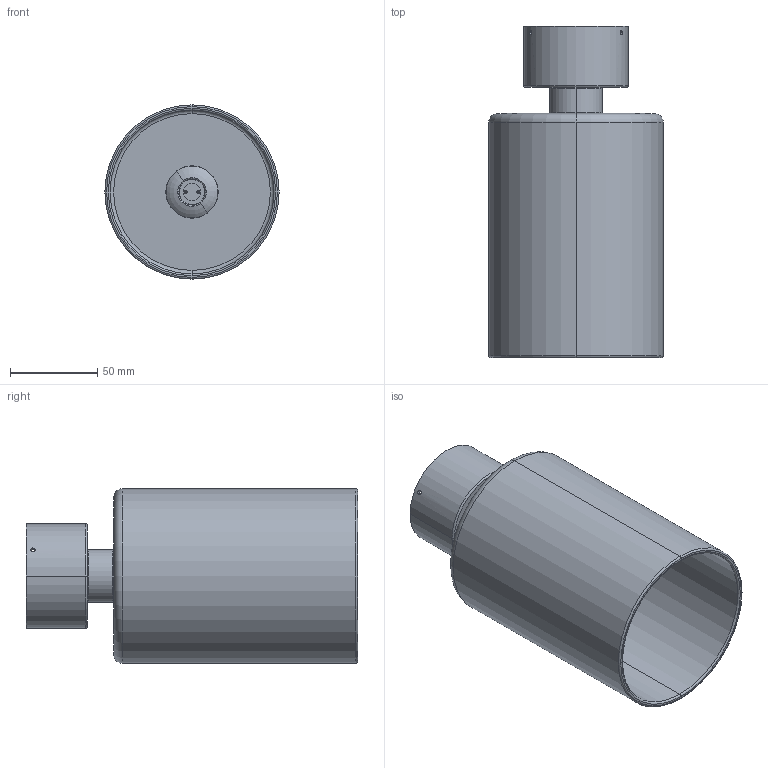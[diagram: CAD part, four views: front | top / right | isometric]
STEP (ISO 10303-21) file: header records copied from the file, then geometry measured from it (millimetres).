
FILE_DESCRIPTION (( 'STEP AP203' ), '1' );
FILE_NAME ('PLSPILXPXXCRINT-PER 3D.STEP', '2024-05-27T16:50:55', ( '' ), ( '' ), 'SwSTEP 2.0', 'SolidWorks 2024', '' );
FILE_SCHEMA (( 'CONFIG_CONTROL_DESIGN' ));
Length unit declared in the file: millimetre
Products named in the file (7): WSASS-000000049-44; VSPILLRAYP140CS; TORNITURA FISSAGGIO VETRO; WSCM2A0105-0700-00_WSCM2A0105-0744-00; WSCM2A0110-0744-00; PLSPILXPXXCRINT-PER 3D; WSMCTFA10C015-0141
Assembly tree (6 placements, depth 3):
  PLSPILXPXXCRINT-PER 3D
    WSASS-000000049-44
      WSCM2A0105-0700-00_WSCM2A0105-0744-00
    WSMCTFA10C015-0141
    WSCM2A0110-0744-00
    TORNITURA FISSAGGIO VETRO
    VSPILLRAYP140CS
Bounding box: 100 x 190 x 100 mm (x, y, z)
Volume: 182070.1 mm3; surface area: 124083.3 mm2
Topology: 5 solids, 5 shells, 107 faces, 224 edges, 131 vertices
Faces by surface type: cylinder 40, cone 26, torus 26, plane 15
Entity records: 3883 total; most frequent: CARTESIAN_POINT 756, DIRECTION 580, ORIENTED_EDGE 444, AXIS2_PLACEMENT_3D 257, EDGE_CURVE 222, CIRCLE 140, VERTEX_POINT 131, EDGE_LOOP 131
